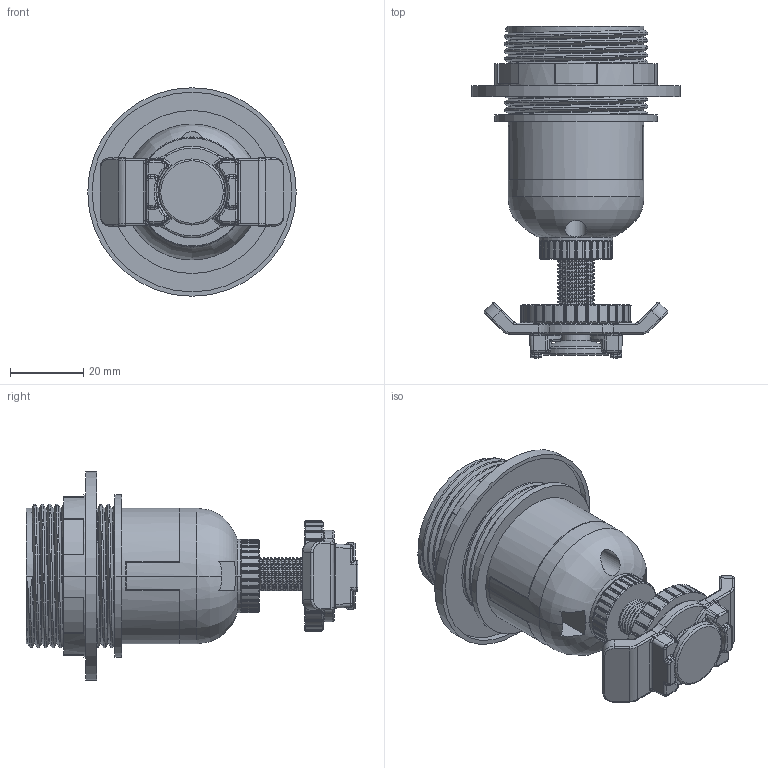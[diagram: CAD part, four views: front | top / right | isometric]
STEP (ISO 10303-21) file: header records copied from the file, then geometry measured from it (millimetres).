
FILE_DESCRIPTION(('FreeCAD Model'),'2;1');
FILE_NAME('Open CASCADE Shape Model','2023-10-30T13:00:20',( 'Lukas Balthasar Pank'),('Astera LED Technology GmbH'), 'Open CASCADE STEP processor 7.6','FreeCAD','Unknown');
FILE_SCHEMA(('AUTOMOTIVE_DESIGN { 1 0 10303 214 1 1 1 1 }'));
Length unit declared in the file: millimetre
Products named in the file (7): FP5-E27S_Lamp Socket_3D-File; 57786-Lamp scoket
Assembly tree (6 placements, depth 2):
  FP5-E27S_Lamp Socket_3D-File
    57786-Lamp scoket
    57786-Lamp scoket
    57786-Lamp scoket
    57786-Lamp scoket
    57786-Lamp scoket
    57786-Lamp scoket
Bounding box: 56.8 x 90.4 x 56.8 mm (x, y, z)
Volume: 55897.2 mm3; surface area: 27856.2 mm2
Topology: 6 solids, 6 shells, 1237 faces, 3320 edges, 2095 vertices
Faces by surface type: cylinder 555, bspline 271, plane 231, cone 145, torus 33, revolution 2
Entity records: 169681 total; most frequent: CARTESIAN_POINT 143292, ORIENTED_EDGE 6616, DIRECTION 4140, EDGE_CURVE 3308, VERTEX_POINT 2095, AXIS2_PLACEMENT_3D 1622, B_SPLINE_CURVE_WITH_KNOTS 1278, FACE_BOUND 1257
